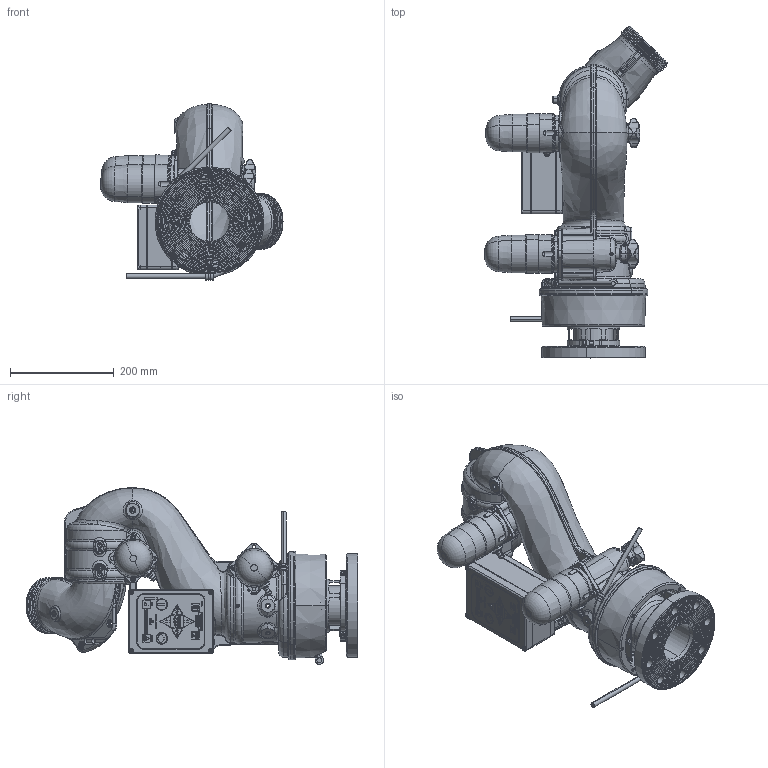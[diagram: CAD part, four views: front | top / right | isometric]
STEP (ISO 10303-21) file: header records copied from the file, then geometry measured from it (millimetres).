
FILE_DESCRIPTION (( 'STEP AP203' ), '1' );
FILE_NAME ('Y5-E41A.STEP', '2016-07-19T20:43:37', ( '' ), ( '' ), 'SwSTEP 2.0', 'SolidWorks 2015', '' );
FILE_SCHEMA (( 'CONFIG_CONTROL_DESIGN' ));
Length unit declared in the file: inch
Products named in the file (1): Y5-E41A
Bounding box: 351.36 x 639.39 x 340.61 mm (x, y, z)
Surface area: 981656.3 mm2 (no closed solid volume)
Topology: 0 solids, 246 shells, 2506 faces, 11067 edges, 8640 vertices
Faces by surface type: plane 684, cylinder 491, torus 490, bspline 435, cone 365, sphere 41
Entity records: 213905 total; most frequent: CARTESIAN_POINT 132524, ORIENTED_EDGE 15804, DIRECTION 14620, EDGE_CURVE 11049, VERTEX_POINT 8634, AXIS2_PLACEMENT_3D 5051, LINE 4518, VECTOR 4518
